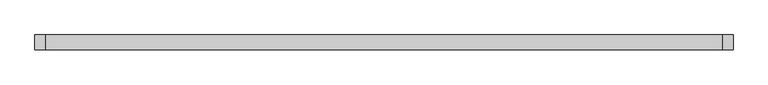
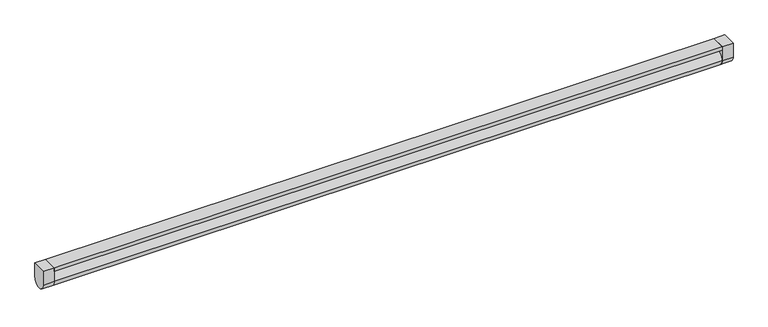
"""IFC4 building model written with IfcOpenShell, lengths in millimetres: light fixture geometry, M_嵌燈 - 條燈 : 1200mm - 220V 28W*1."""

from ifc_helpers import new_model, si_unit, point, frame, frame_2d, origin, place, context, project, spatial, polyline, circle_curve, trimmed, segment, composite_curve, outline, extrude, source, transform, mapped, element, save


def light_fixture_5f90fc17(model_context):
    return source(origin(), model_context, "Body", "SweptSolid", [
        extrude(outline(polyline([(580.95, -205.9435765), (580.95, -231.3435765), (-580.95, -231.3435765), (-580.95, -205.9435765), (580.95, -205.9435765)])), frame((0.0, 0.0, 3843.65), z_axis=(0.0, 0.0, 1.0), x_axis=(1.0, 0.0, 0.0)), (0.0, 0.0, 1.0), 6.35),
        extrude(outline(composite_curve([segment(trimmed(circle_curve(frame_2d((-218.6435765, 3824.6)), 12.7), [point((-205.9435765, 3824.6))], [point((-231.3435765, 3824.6))], False, "CARTESIAN"), True, "CONTINUOUS"), segment(polyline([(-231.3435765, 3824.6), (-231.3435765, 3850.0), (-205.9435765, 3850.0), (-205.9435765, 3824.6)]), True, "CONTINUOUS")], self_intersect=False)), frame((-600.0, 0.0, 0.0), z_axis=(1.0, 0.0, 0.0), x_axis=(0.0, 1.0, 0.0)), (0.0, 0.0, 1.0), 19.05),
        extrude(outline(composite_curve([segment(trimmed(circle_curve(frame_2d((-218.6435765, 3824.6)), 12.7), [point((-205.9435765, 3824.6))], [point((-231.3435765, 3824.6))], False, "CARTESIAN"), True, "CONTINUOUS"), segment(polyline([(-231.3435765, 3824.6), (-231.3435765, 3850.0), (-205.9435765, 3850.0), (-205.9435765, 3824.6)]), True, "CONTINUOUS")], self_intersect=False)), frame((580.95, 0.0, 0.0), z_axis=(1.0, 0.0, 0.0), x_axis=(0.0, 1.0, 0.0)), (0.0, 0.0, 1.0), 19.05),
        extrude(outline(composite_curve([segment(trimmed(circle_curve(frame_2d((-218.6435765, 3824.6)), 12.7), [point((-231.3435765, 3824.6))], [point((-205.9435765, 3824.6))], False, "CARTESIAN"), True, "CONTINUOUS"), segment(trimmed(circle_curve(frame_2d((-218.6435765, 3824.6)), 12.7), [point((-205.9435765, 3824.6))], [point((-231.3435765, 3824.6))], False, "CARTESIAN"), True, "CONTINUOUS")], self_intersect=False)), frame((-580.95, 0.0, 0.0), z_axis=(1.0, 0.0, 0.0), x_axis=(0.0, 1.0, 0.0)), (0.0, 0.0, 1.0), 1161.9),
    ])


if __name__ == "__main__":
    model = new_model("IFC4")
    model_context = context("Model", 3, world=origin())
    ifc_project = project(units=[si_unit("LENGTHUNIT", "METRE", prefix="MILLI")], contexts=[model_context])
    site = spatial("IfcSite", under=ifc_project)
    building = spatial("IfcBuilding", under=site)
    placement = place(None, origin())
    light_fixture_shape = light_fixture_5f90fc17(model_context)
    element("IfcLightFixture", 1, ObjectType="M_嵌燈 - 條燈 : 1200mm - 220V 28W*1", at=placement, inside=building, context=model_context, shape_type="MappedRepresentation", body=[
        mapped(light_fixture_shape, transform((0.0, 0.0, 0.0), x_axis=(1.0, 0.0, 0.0), y_axis=(0.0, 1.0, 0.0), z_axis=(0.0, 0.0, 1.0))),
    ])
    save(model, "model.ifc")
